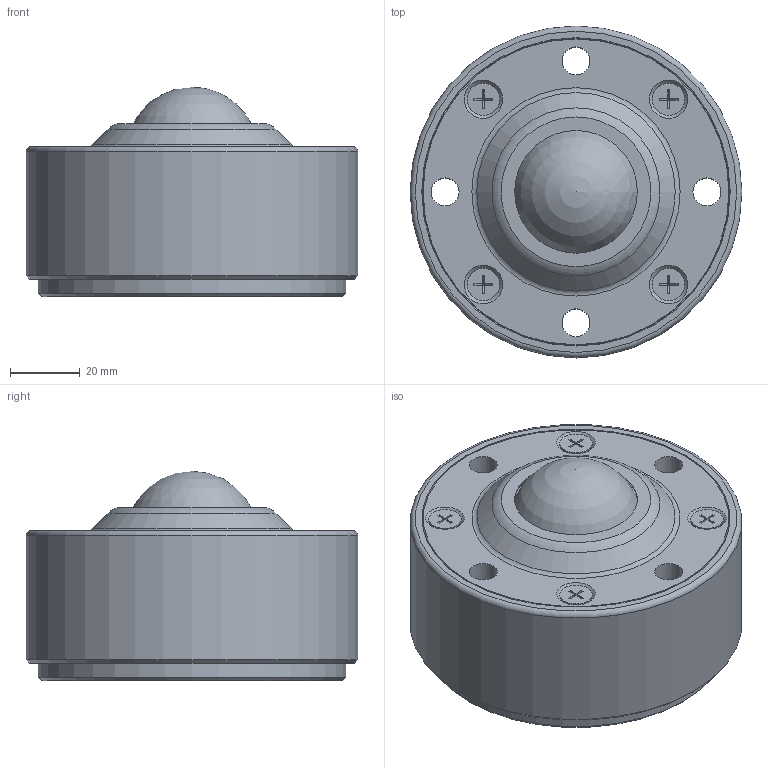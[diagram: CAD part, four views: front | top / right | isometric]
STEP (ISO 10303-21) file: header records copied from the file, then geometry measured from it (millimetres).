
FILE_DESCRIPTION(/* description */ (''),/* implementation_level */ '2;1');
FILE_NAME(/* name */ 'Z:\34-Tei\web 3Dデータ\13-IS型\IS-38.stp',/* time_stamp */ '2015-01-09T10:55:44+09:00',/* author */ ('yamaki'),/* organization */ (''),/* preprocessor_version */ 'ST-DEVELOPER v15.6',/* originating_system */ 'Autodesk Inventor 2015',/* authorisation */ '');
FILE_SCHEMA (('AUTOMOTIVE_DESIGN { 1 0 10303 214 3 1 1 }'));
Length unit declared in the file: millimetre
Products named in the file (1): IS-38
Bounding box: 95 x 95 x 60 mm (x, y, z)
Volume: 309081.7 mm3; surface area: 32866.6 mm2
Topology: 1 solids, 1 shells, 134 faces, 255 edges, 137 vertices
Faces by surface type: plane 108, cylinder 13, cone 8, torus 4, sphere 1
Full cylindrical faces by diameter (mm): 8 x4, 9.3 x4, 25 x1, 87.6 x1, 88 x1, 88.3 x1, 95 x1
Entity records: 3150 total; most frequent: DIRECTION 528, CARTESIAN_POINT 477, ORIENTED_EDGE 434, EDGE_CURVE 217, EDGE_LOOP 182, LINE 176, VECTOR 176, AXIS2_PLACEMENT_3D 176
